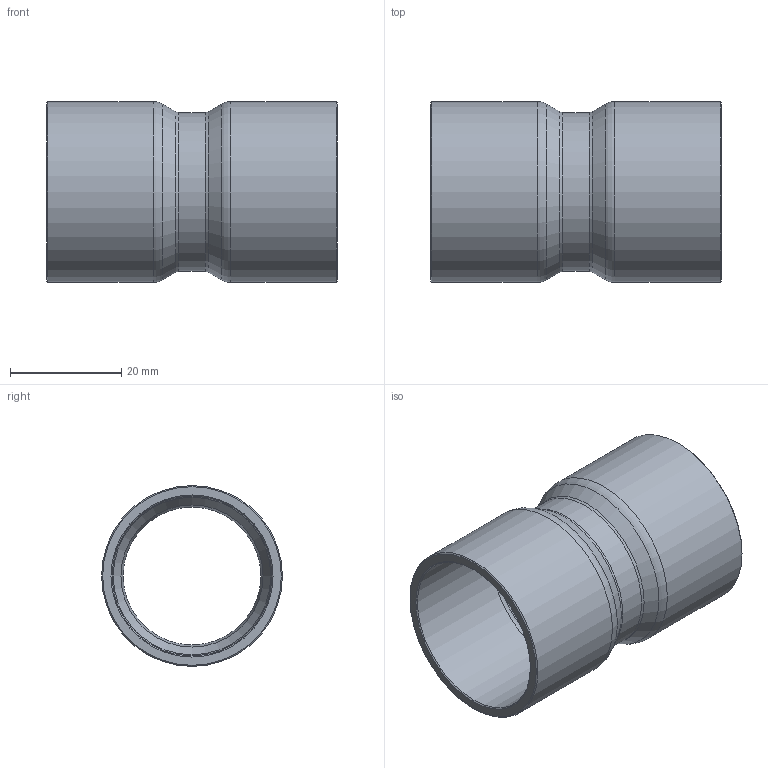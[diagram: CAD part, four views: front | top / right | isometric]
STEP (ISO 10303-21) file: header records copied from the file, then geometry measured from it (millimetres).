
FILE_DESCRIPTION((''),'2;1');
FILE_NAME('G:\SANHA-Ternat\Technik\Management\Bouwmaten + markeringen\z-maattekeningen 3D\29000s\29270118_3d.stp','2017-08-03T14:27:25',('vdvijverd'),(''),'Autodesk Inventor 2009','Autodesk Inventor 2009','');
FILE_SCHEMA(('AUTOMOTIVE_DESIGN { 1 0 10303 214 1 1 1 1 }'));
Length unit declared in the file: millimetre
Products named in the file (1): 29270118_3d
Bounding box: 52.3 x 32.5 x 32.5 mm (x, y, z)
Volume: 9445.5 mm3; surface area: 10318.4 mm2
Topology: 1 solids, 1 shells, 24 faces, 46 edges, 24 vertices
Faces by surface type: cone 8, cylinder 6, torus 4, bspline 4, plane 2
Full cylindrical faces by diameter (mm): 24.77 x1, 28.57 x1, 28.725 x2, 32.5 x2
Entity records: 674 total; most frequent: CARTESIAN_POINT 249, DIRECTION 90, ORIENTED_EDGE 48, EDGE_LOOP 48, AXIS2_PLACEMENT_3D 45, VERTEX_POINT 24, CIRCLE 24, EDGE_CURVE 24
